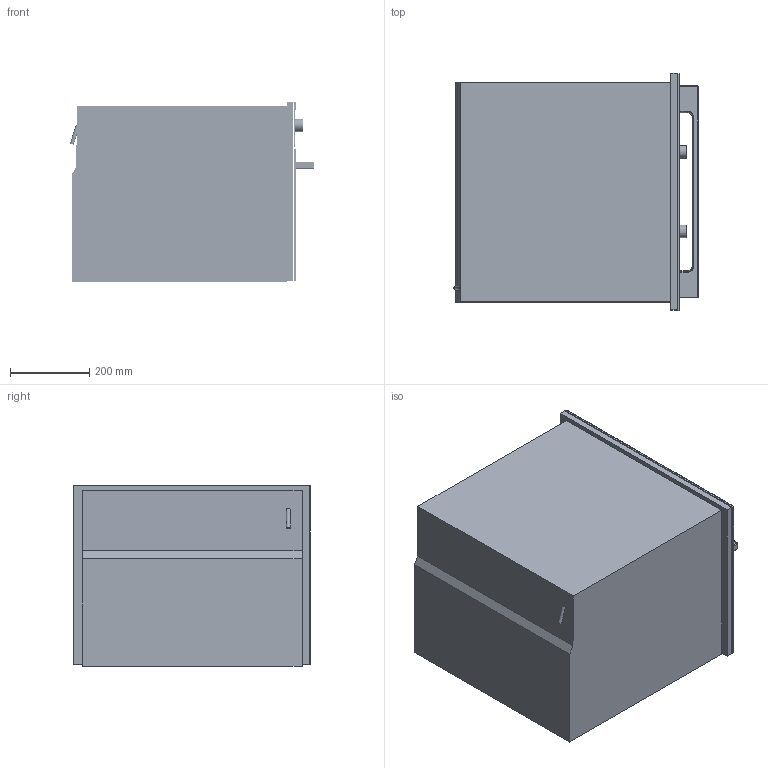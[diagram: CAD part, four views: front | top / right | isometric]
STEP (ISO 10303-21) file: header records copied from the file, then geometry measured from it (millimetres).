
FILE_DESCRIPTION(/* description */ (''),/* implementation_level */ '2;1');
FILE_NAME(/* name */ 'H6100BM_CLST',/* time_stamp */ '2013-03-08T17:25:39+01:00',/* author */ (''),/* organization */ (''),/* preprocessor_version */ 'ST-DEVELOPER v10',/* originating_system */ '',/* authorisation */ '');
FILE_SCHEMA (('AUTOMOTIVE_DESIGN_CC2'));
Length unit declared in the file: millimetre
Products named in the file (1): 1
Bounding box: 615 x 596.12 x 455.1 mm (x, y, z)
Volume: 91043494.1 mm3; surface area: 3544237.3 mm2
Topology: 36 solids, 37 shells, 221 faces, 404 edges, 250 vertices
Faces by surface type: bspline 221
Entity records: 55432 total; most frequent: CARTESIAN_POINT 52575, ORIENTED_EDGE 788, EDGE_CURVE 396, VERTEX_POINT 250, EDGE_LOOP 227, ADVANCED_FACE 221, FACE_OUTER_BOUND 221, B_SPLINE_CURVE_WITH_KNOTS 218
